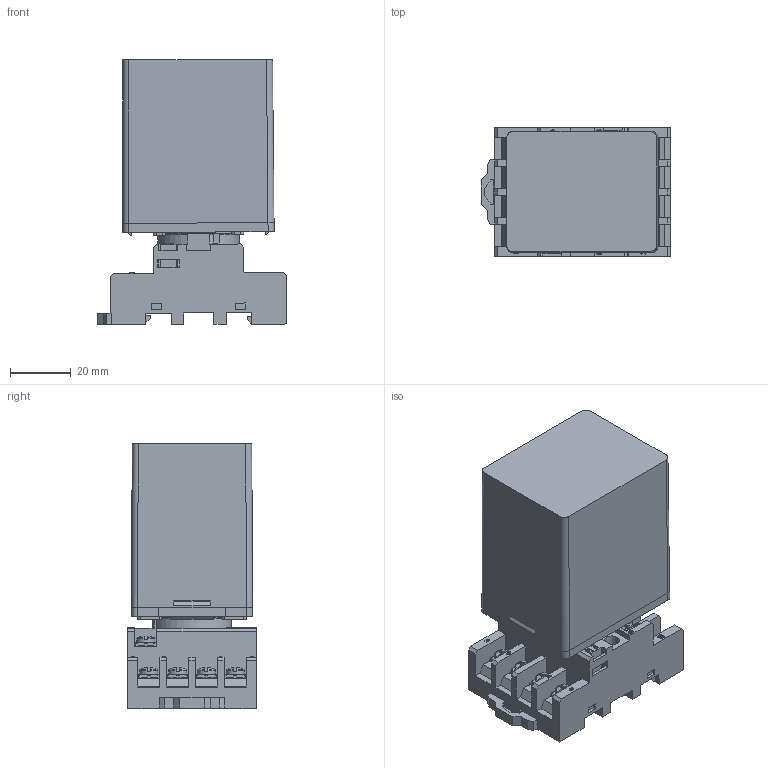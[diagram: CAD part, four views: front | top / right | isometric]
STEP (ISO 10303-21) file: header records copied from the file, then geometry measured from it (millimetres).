
FILE_DESCRIPTION((''),'2;1');
FILE_NAME('D:\yang\Yang cw\SPG 업무\2. DC MOTOR\7. DC MOTOR 브로슈어\SS 표준 TYPE\SS TYPE(S).stp','2015-03-30T16:15:29',('ycw1227'),(''),'Autodesk Inventor 2013','Autodesk Inventor 2013','');
FILE_SCHEMA(('AUTOMOTIVE_DESIGN { 1 0 10303 214 1 1 1 1 }'));
Length unit declared in the file: millimetre
Products named in the file (1): 부품14
Bounding box: 62.52 x 42.5 x 87.75 mm (x, y, z)
Volume: 62708.8 mm3; surface area: 47777.1 mm2
Topology: 1 solids, 2 shells, 2443 faces, 6786 edges, 4442 vertices
Faces by surface type: plane 1525, cylinder 422, bspline 289, cone 110, torus 74, sphere 23
Full cylindrical faces by diameter (mm): 0.437 x1, 0.486 x1, 1.029 x1, 1.143 x1, 2.4 x11, 3 x22, 3.1 x11, 4 x11, 6 x11, 7.5 x1, 11 x1, 14 x1, 27 x1
Entity records: 86031 total; most frequent: CARTESIAN_POINT 24397, ORIENTED_EDGE 13368, DIRECTION 11286, EDGE_CURVE 6684, VECTOR 4468, LINE 4468, VERTEX_POINT 4440, AXIS2_PLACEMENT_3D 3409
